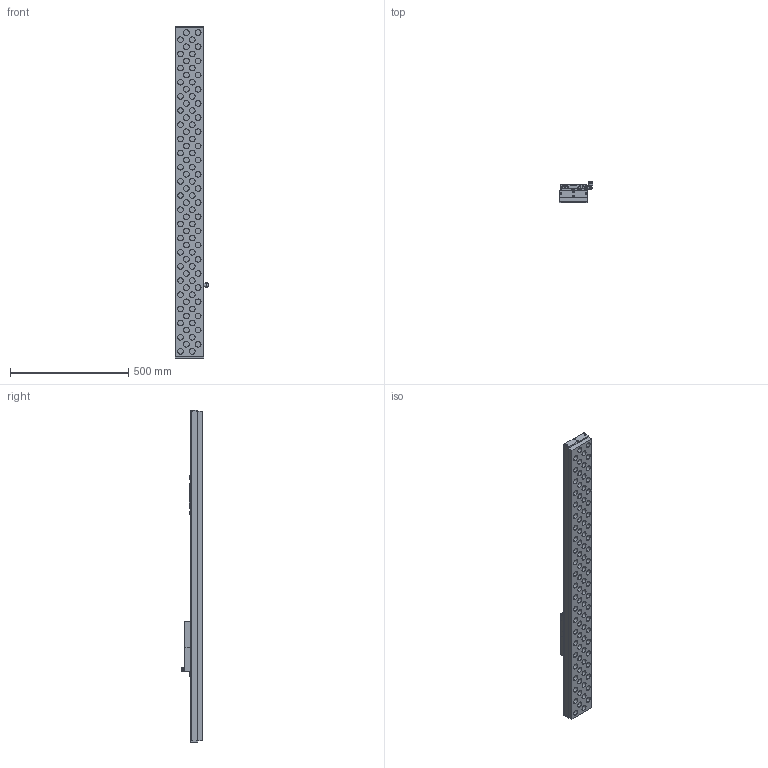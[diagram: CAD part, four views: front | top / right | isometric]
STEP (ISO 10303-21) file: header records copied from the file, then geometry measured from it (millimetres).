
FILE_DESCRIPTION (( 'STEP AP214' ), '1' );
FILE_NAME ('311 400 013.STEP', '2018-01-10T11:47:21', ( '' ), ( '' ), 'SwSTEP 2.0', 'SolidWorks 2017', '' );
FILE_SCHEMA (( 'AUTOMOTIVE_DESIGN' ));
Length unit declared in the file: millimetre
Products named in the file (1): 311 400 013
Bounding box: 142.75 x 89 x 1406 mm (x, y, z)
Volume: 8234164.9 mm3; surface area: 677125.6 mm2
Topology: 1 solids, 3 shells, 999 faces, 2255 edges, 1412 vertices
Faces by surface type: cylinder 472, plane 349, torus 117, cone 48, sphere 7, bspline 6
Entity records: 39517 total; most frequent: DIRECTION 5361, CARTESIAN_POINT 5361, ORIENTED_EDGE 4480, EDGE_CURVE 2240, AXIS2_PLACEMENT_3D 2207, VERTEX_POINT 1403, CIRCLE 1213, EDGE_LOOP 1155
